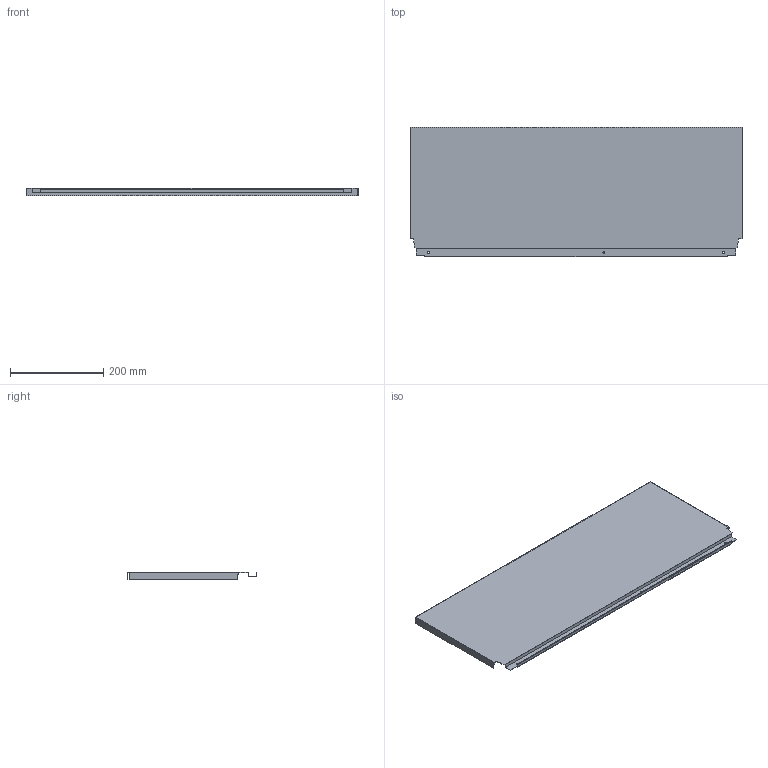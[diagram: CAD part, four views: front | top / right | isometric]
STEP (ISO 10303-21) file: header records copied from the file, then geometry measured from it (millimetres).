
FILE_DESCRIPTION (( 'STEP AP214' ), '1' );
FILE_NAME ('_DWD_XP Stahlrückwand_H278_KAB800_S18.step', '2010-07-08T13:03:59', ( 'grass' ), ( '' ), 'SwSTEP 2.0', 'SolidWorks 2010', '' );
FILE_SCHEMA (( 'AUTOMOTIVE_DESIGN' ));
Length unit declared in the file: millimetre
Products named in the file (1): _DWD_XP Stahlrückwand_H278_KAB800_S18
Bounding box: 713 x 278.57 x 16 mm (x, y, z)
Volume: 198526 mm3; surface area: 453013.4 mm2
Topology: 1 solids, 1 shells, 46 faces, 132 edges, 88 vertices
Faces by surface type: plane 40, cylinder 6
Entity records: 1534 total; most frequent: CARTESIAN_POINT 267, ORIENTED_EDGE 264, DIRECTION 238, EDGE_CURVE 132, LINE 120, VECTOR 120, VERTEX_POINT 88, AXIS2_PLACEMENT_3D 59
